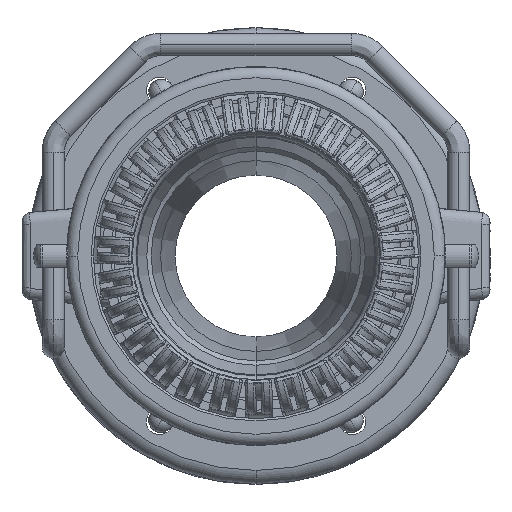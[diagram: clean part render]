
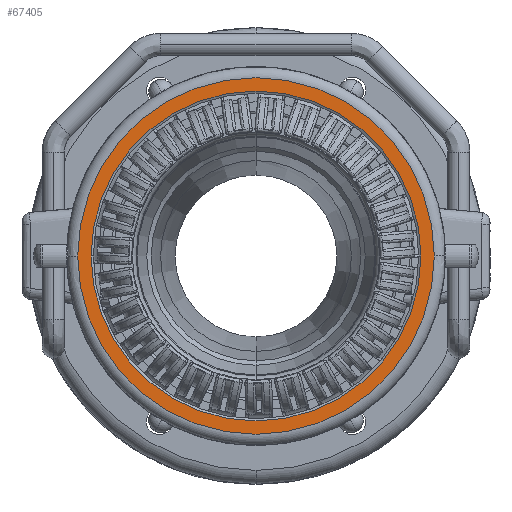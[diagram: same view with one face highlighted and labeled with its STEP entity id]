
A CAD part, left-side view. The second image highlights one B-rep face of the part: STEP entity #67405.
In plain terms, the highlighted planar face has unit normal (-1, 0, 0).
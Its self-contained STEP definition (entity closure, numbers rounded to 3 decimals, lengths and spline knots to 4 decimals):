
#25641 = ORIENTED_EDGE ( 'NONE', *, *, #82370, .T. ) ;
#25642 = ORIENTED_EDGE ( 'NONE', *, *, #82323, .T. ) ;
#25643 = ORIENTED_EDGE ( 'NONE', *, *, #82342, .T. ) ;
#25644 = ORIENTED_EDGE ( 'NONE', *, *, #82367, .T. ) ;
#49446 = FACE_OUTER_BOUND ( 'NONE', #53624, .T. ) ;
#49450 = FACE_BOUND ( 'NONE', #53348, .T. ) ;
#53348 = EDGE_LOOP ( 'NONE', ( #25643, #25644 ) ) ;
#53624 = EDGE_LOOP ( 'NONE', ( #25641, #25642 ) ) ;
#58072 = AXIS2_PLACEMENT_3D ( 'NONE', #95563, #95564, #95565 ) ;
#58082 = AXIS2_PLACEMENT_3D ( 'NONE', #95627, #95628, #95629 ) ;
#58097 = AXIS2_PLACEMENT_3D ( 'NONE', #95655, #95656, #95657 ) ;
#58100 = AXIS2_PLACEMENT_3D ( 'NONE', #95660, #95661, #95662 ) ;
#67405 = ADVANCED_FACE ( 'NONE', ( #49446, #49450 ), #75046, .F. ) ;
#75039 = CARTESIAN_POINT ( 'NONE',  ( -1.065, 0., 4.25 ) ) ;
#75046 = PLANE ( 'NONE',  #76530 ) ;
#75050 = DIRECTION ( 'NONE',  ( 1., 0., 0. ) ) ;
#75052 = DIRECTION ( 'NONE',  ( 0., 1., 0. ) ) ;
#76530 = AXIS2_PLACEMENT_3D ( 'NONE', #75039, #75050, #75052 ) ;
#78043 = CIRCLE ( 'NONE', #58072, 4. ) ;
#78055 = CIRCLE ( 'NONE', #58082, 3.7 ) ;
#78086 = CIRCLE ( 'NONE', #58097, 3.7 ) ;
#78088 = CIRCLE ( 'NONE', #58100, 4. ) ;
#82323 = EDGE_CURVE ( 'NONE', #90341, #90133, #78043, .T. ) ;
#82342 = EDGE_CURVE ( 'NONE', #90099, #90097, #78055, .T. ) ;
#82367 = EDGE_CURVE ( 'NONE', #90097, #90099, #78086, .T. ) ;
#82370 = EDGE_CURVE ( 'NONE', #90133, #90341, #78088, .T. ) ;
#90097 = VERTEX_POINT ( 'NONE', #97359 ) ;
#90099 = VERTEX_POINT ( 'NONE', #97360 ) ;
#90133 = VERTEX_POINT ( 'NONE', #97377 ) ;
#90341 = VERTEX_POINT ( 'NONE', #97482 ) ;
#95563 = CARTESIAN_POINT ( 'NONE',  ( -1.065, 0., 0. ) ) ;
#95564 = DIRECTION ( 'NONE',  ( -1., 0., 0. ) ) ;
#95565 = DIRECTION ( 'NONE',  ( 0., 1., 0. ) ) ;
#95627 = CARTESIAN_POINT ( 'NONE',  ( -1.065, 0., 0. ) ) ;
#95628 = DIRECTION ( 'NONE',  ( 1., 0., 0. ) ) ;
#95629 = DIRECTION ( 'NONE',  ( 0., 1., 0. ) ) ;
#95655 = CARTESIAN_POINT ( 'NONE',  ( -1.065, 0., 0. ) ) ;
#95656 = DIRECTION ( 'NONE',  ( 1., 0., 0. ) ) ;
#95657 = DIRECTION ( 'NONE',  ( 0., 1., 0. ) ) ;
#95660 = CARTESIAN_POINT ( 'NONE',  ( -1.065, 0., 0. ) ) ;
#95661 = DIRECTION ( 'NONE',  ( -1., 0., 0. ) ) ;
#95662 = DIRECTION ( 'NONE',  ( 0., 1., 0. ) ) ;
#97359 = CARTESIAN_POINT ( 'NONE',  ( -1.065, 3.7, 0. ) ) ;
#97360 = CARTESIAN_POINT ( 'NONE',  ( -1.065, -3.7, 0. ) ) ;
#97377 = CARTESIAN_POINT ( 'NONE',  ( -1.065, 4., 0. ) ) ;
#97482 = CARTESIAN_POINT ( 'NONE',  ( -1.065, -4., 0. ) ) ;
